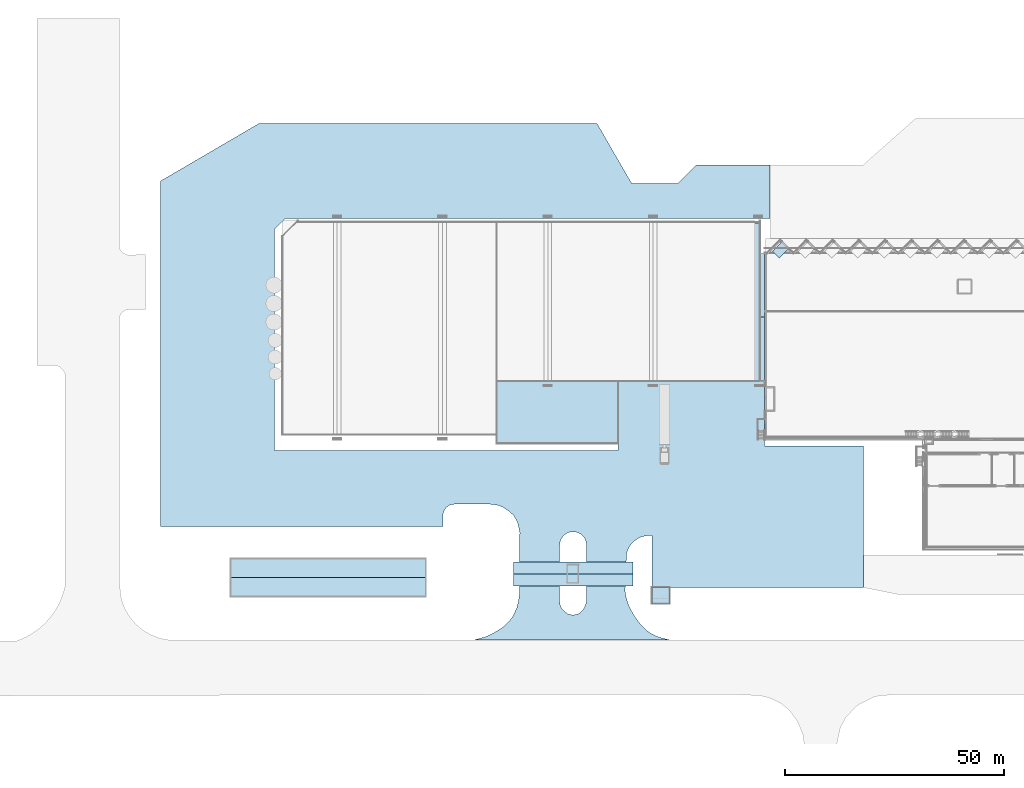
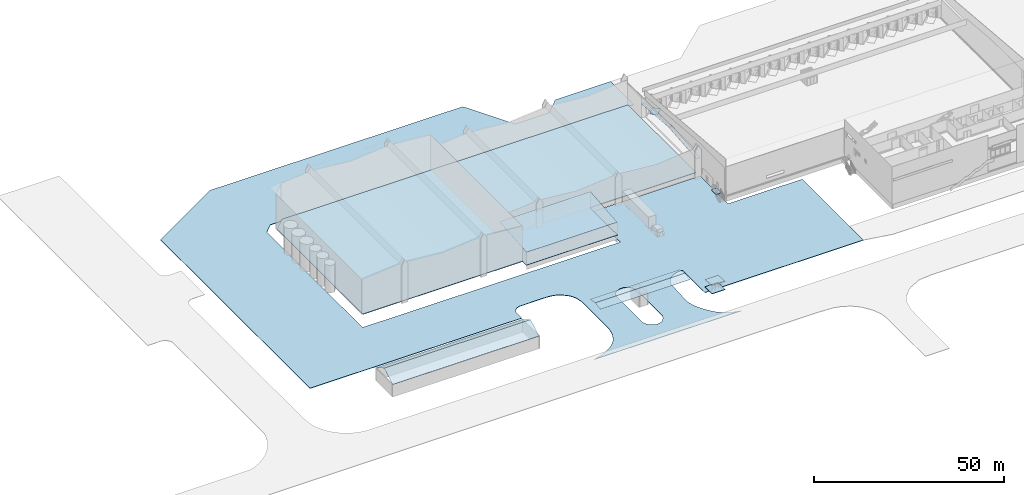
# One storey, part 10 of 64: 13 slabs, 1 opening, 5 elements without a shape of their own.
"""IFC2X3 building model written with IfcOpenShell, lengths in millimetres."""

from ifc_helpers import new_model, entity, si_unit, converted_unit, derived_unit, direction, frame, frame_2d, origin, place, context, subcontext, project, spatial, polyline, circle_curve, parameter, trimmed, segment, composite_curve, rectangle, outline, extrude, material, layer, layer_set, layer_usage, element, aggregate, save


model = new_model("IFC2X3")

# Units and contexts
model_context = context("Model", 3, precision=0.01, world=origin(), true_north=direction((4.05803320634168e-15, -1.0)))
body_context = subcontext(model_context, "Body", "Model", "MODEL_VIEW")
ifc_project = project(units=[si_unit("LENGTHUNIT", "METRE", prefix="MILLI"), si_unit("AREAUNIT", "SQUARE_METRE"), si_unit("VOLUMEUNIT", "CUBIC_METRE"), converted_unit("PLANEANGLEUNIT", "DEGREE", entity("IfcRatioMeasure", 0.0174532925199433), si_unit("PLANEANGLEUNIT", "RADIAN"), dimensions=[0, 0, 0, 0, 0, 0, 0]), si_unit("MASSUNIT", "GRAM", prefix="KILO"), derived_unit("MASSDENSITYUNIT", [(si_unit("MASSUNIT", "GRAM", prefix="KILO"), 1), (si_unit("LENGTHUNIT", "METRE"), -3)]), si_unit("TIMEUNIT", "SECOND"), si_unit("FREQUENCYUNIT", "HERTZ"), si_unit("THERMODYNAMICTEMPERATUREUNIT", "DEGREE_CELSIUS"), derived_unit("THERMALTRANSMITTANCEUNIT", [(si_unit("MASSUNIT", "GRAM", prefix="KILO"), 1), (si_unit("THERMODYNAMICTEMPERATUREUNIT", "KELVIN"), -1), (si_unit("TIMEUNIT", "SECOND"), -3)]), derived_unit("VOLUMETRICFLOWRATEUNIT", [(si_unit("LENGTHUNIT", "METRE"), 3), (si_unit("TIMEUNIT", "SECOND"), -1)]), si_unit("ELECTRICCURRENTUNIT", "AMPERE"), si_unit("ELECTRICVOLTAGEUNIT", "VOLT"), si_unit("POWERUNIT", "WATT"), si_unit("FORCEUNIT", "NEWTON", prefix="KILO"), si_unit("ILLUMINANCEUNIT", "LUX"), si_unit("LUMINOUSFLUXUNIT", "LUMEN"), si_unit("LUMINOUSINTENSITYUNIT", "CANDELA"), derived_unit("USERDEFINED", [(si_unit("MASSUNIT", "GRAM", prefix="KILO"), -1), (si_unit("LENGTHUNIT", "METRE"), -2), (si_unit("TIMEUNIT", "SECOND"), 3), (si_unit("LUMINOUSFLUXUNIT", "LUMEN"), 1)]), derived_unit("LINEARVELOCITYUNIT", [(si_unit("LENGTHUNIT", "METRE"), 1), (si_unit("TIMEUNIT", "SECOND"), -1)]), si_unit("PRESSUREUNIT", "PASCAL"), derived_unit("USERDEFINED", [(si_unit("LENGTHUNIT", "METRE"), -2), (si_unit("MASSUNIT", "GRAM", prefix="KILO"), 1), (si_unit("TIMEUNIT", "SECOND"), -2)])], contexts=[model_context])

# Site, building, storey
site_placement = place(None, frame((927466.849349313, 583801.882853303, 0.0), z_axis=(0.0, 0.0, 1.0), x_axis=(-1.0, 0.0, 0.0)))
site = spatial("IfcSite", under=ifc_project, at=site_placement, Name="Surface", CompositionType="ELEMENT")
building_placement = place(site_placement, origin())
building = spatial("IfcBuilding", under=site, at=building_placement, CompositionType="ELEMENT")
storey_placement = place(building_placement, frame((0.0, 0.0, 44170.0)))
storey = spatial("IfcBuildingStorey", under=building, at=storey_placement, Name="Ground FFL", CompositionType="ELEMENT", Elevation=44170.0)

# Roof, slabs
roof_1_placement = place(storey_placement, frame((32750.5657690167, 38901.441029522, 4000.0)))
roof_1 = element("IfcRoof", 1, at=roof_1_placement, inside=storey, Name="Basic Roof:50", ObjectType="Basic Roof:50", ShapeType="NOTDEFINED")
ifc_material_1 = material(Name="Aluminum")
ifc_layer_1 = layer(ifc_material_1, 50.0)
ifc_layer_set_1 = layer_set([ifc_layer_1], Name="Basic Roof:50")
slab_1_placement = place(roof_1_placement, origin())
slab_1 = element("IfcSlab", 2, at=slab_1_placement, material=ifc_layer_set_1, Name="Basic Roof:50", ObjectType="Basic Roof:50", PredefinedType="ROOF", context=body_context, shape_type="SweptSolid", body=[
    extrude(rectangle(XDim=44530.0, YDim=5149.96728946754, at=frame_2d((0.0, -4.68389771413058e-11), x_axis=(-1.0, 0.0))), frame((22265.0, 2230.001250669, 1287.49182236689), z_axis=(0.0, -0.499999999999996, 0.866025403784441), x_axis=(1.0, 0.0, 0.0)), (0.0, 0.499999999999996, 0.866025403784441), 57.7350269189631),
])
slab_2_placement = place(roof_1_placement, origin())
slab_2 = element("IfcSlab", 3, at=slab_2_placement, material=ifc_layer_set_1, Name="Basic Roof:50", ObjectType="Basic Roof:50", PredefinedType="ROOF", context=body_context, shape_type="SweptSolid", body=[
    extrude(rectangle(XDim=5149.9672894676, YDim=44530.0, at=frame_2d((-5.45696821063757e-12, 3.84261511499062e-11), x_axis=(0.0, -1.0))), frame((22265.0, 6690.00375200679, 1287.49182236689), z_axis=(0.0, 0.499999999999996, 0.866025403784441), x_axis=(1.0, 0.0, 0.0)), (0.0, -0.499999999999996, 0.866025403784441), 57.7350269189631),
])
aggregate(roof_1, [slab_1, slab_2])

# Roof, slab
roof_2_placement = place(storey_placement, frame((-11218.0540881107, -1359.36461970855, 4000.0)))
roof_2 = element("IfcRoof", 4, at=roof_2_placement, inside=storey, Name="Basic Roof:50", ObjectType="Basic Roof:50", ShapeType="NOTDEFINED")
slab_3_placement = place(roof_2_placement, origin())
slab_3 = element("IfcSlab", 5, at=slab_3_placement, material=ifc_layer_set_1, Name="Basic Roof:50", ObjectType="Basic Roof:50", PredefinedType="ROOF", context=body_context, shape_type="SweptSolid", body=[
    extrude(rectangle(XDim=14284.3949155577, YDim=27628.9119638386, at=frame_2d((0.0, 0.0), x_axis=(0.0, 1.0))), frame((13814.4559819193, 7115.01924016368, 622.483524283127), z_axis=(0.0, 0.0871557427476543, 0.996194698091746), x_axis=(1.0, 0.0, 0.0)), (0.0, -0.0871557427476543, 0.996194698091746), 50.1909918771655),
])
aggregate(roof_2, [slab_3])

# Roof, slabs
roof_3_placement = place(storey_placement, frame((-14617.1585914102, 39896.189739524, 4000.0)))
roof_3 = element("IfcRoof", 6, at=roof_3_placement, inside=storey, Name="Basic Roof:50", ObjectType="Basic Roof:50", ShapeType="NOTDEFINED")
slab_4_placement = place(roof_3_placement, origin())
slab_4 = element("IfcSlab", 7, at=slab_4_placement, material=ifc_layer_set_1, Name="Basic Roof:50", ObjectType="Basic Roof:50", PredefinedType="ROOF", context=body_context, shape_type="SweptSolid", body=[
    extrude(rectangle(XDim=27298.0744917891, YDim=2728.24487283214, at=frame_2d((4.54747350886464e-12, 0.0), x_axis=(-1.0, 0.0))), frame((13649.0372458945, 1343.39835144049, 236.877375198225), z_axis=(0.0, -0.173648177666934, 0.984807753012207), x_axis=(1.0, 0.0, 0.0)), (0.0, 0.173648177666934, 0.984807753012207), 50.7713305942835),
])
slab_5_placement = place(roof_3_placement, origin())
slab_5 = element("IfcSlab", 8, at=slab_5_placement, material=ifc_layer_set_1, Name="Basic Roof:50", ObjectType="Basic Roof:50", PredefinedType="ROOF", context=body_context, shape_type="SweptSolid", body=[
    extrude(rectangle(XDim=2728.24487283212, YDim=27298.0744917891, at=frame_2d((4.54747350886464e-12, 0.0), x_axis=(0.0, -1.0))), frame((13649.0372458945, 4030.19505432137, 236.877375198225), z_axis=(0.0, 0.173648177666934, 0.984807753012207), x_axis=(1.0, 0.0, 0.0)), (0.0, -0.173648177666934, 0.984807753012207), 50.7713305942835),
])
aggregate(roof_3, [slab_4, slab_5])

# Slab
ifc_material_2 = material(Name="existing floor")
ifc_layer_2 = layer(ifc_material_2, 200.0)
ifc_layer_set_2 = layer_set([ifc_layer_2], Name="Floor:Existing floor")
ifc_layer_usage_1 = layer_usage(ifc_layer_set_2, "AXIS3", "POSITIVE", 0.0)
slab_6_placement = place(storey_placement, origin())
element("IfcSlab", 9, at=slab_6_placement, inside=storey, material=ifc_layer_usage_1, Name="Floor:Existing floor", ObjectType="Floor:Existing floor", PredefinedType="FLOOR", context=body_context, shape_type="SweptSolid", body=[
    extrude(outline(polyline([(-30248.0932765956, -56320.1614281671), (5647.19858515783, -56320.1614281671), (5647.19858515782, -24025.680202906), (20070.2948088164, -24025.680202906), (20070.2948088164, 3641.23176093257), (18032.2948088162, 3641.23176093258), (18032.2948088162, 52217.9743881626), (-27003.3898523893, 52217.9743881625), (-30248.0932765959, 48973.2709639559), (-30248.0932765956, -56320.1614281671)])), frame((12807.6261147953, -7199.62094819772, 0.0), z_axis=(0.0, 0.0, -1.0), x_axis=(0.0, 1.0, 0.0)), (0.0, 0.0, 1.0), 199.999999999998),
])

# Roof, slabs
roof_4_placement = place(storey_placement, frame((-44599.0423298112, -30621.740321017, 4430.58171283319)))
roof_4 = element("IfcRoof", 10, at=roof_4_placement, inside=storey, Name="Basic Roof:50", ObjectType="Basic Roof:50", ShapeType="NOTDEFINED")
slab_7_placement = place(roof_4_placement, origin())
slab_7 = element("IfcSlab", 11, at=slab_7_placement, material=ifc_layer_set_1, Name="Basic Roof:50", ObjectType="Basic Roof:50", PredefinedType="ROOF", context=body_context, shape_type="SweptSolid", body=[
    extrude(rectangle(XDim=14706.1491882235, YDim=1086.50701643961, at=frame_2d((-4.37694325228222e-12, -2.27373675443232e-12), x_axis=(0.0, -1.0))), frame((543.253508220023, 21975.2817759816, 640.862677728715), z_axis=(0.0, 0.0871557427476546, 0.996194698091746), x_axis=(1.0, 0.0, 0.0)), (0.0, -0.0871557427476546, 0.996194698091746), 50.1909918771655),
])
slab_8_placement = place(roof_4_placement, origin())
slab_8 = element("IfcSlab", 12, at=slab_8_placement, material=ifc_layer_set_1, Name="Basic Roof:50", ObjectType="Basic Roof:50", PredefinedType="ROOF", context=body_context, shape_type="SweptSolid", body=[
    extrude(rectangle(XDim=1086.5070164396, YDim=14706.1491882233, at=frame_2d((-4.32009983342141e-12, 2.27373675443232e-12), x_axis=(-1.0, 0.0))), frame((543.253508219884, 7325.09392532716, 640.862677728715), z_axis=(0.0, -0.0871557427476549, 0.996194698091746), x_axis=(1.0, 0.0, 0.0)), (0.0, 0.0871557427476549, 0.996194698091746), 50.1909918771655),
])
aggregate(roof_4, [slab_7, slab_8])

# Slabs
ifc_material_3 = material(Name="cocn slab")
ifc_layer_3 = layer(ifc_material_3, 200.0)
ifc_layer_set_3 = layer_set([ifc_layer_3], Name="Floor:Generic 150mm")
ifc_layer_usage_2 = layer_usage(ifc_layer_set_3, "AXIS3", "POSITIVE", 0.0)
slab_9_placement = place(storey_placement, frame((-81347.9372768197, 7332.08571852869, -200.0)))
element("IfcSlab", 13, at=slab_9_placement, inside=storey, material=ifc_layer_usage_2, Name="Floor:Generic 150mm", ObjectType="Floor:Generic 150mm", PredefinedType="FLOOR", context=body_context, shape_type="SweptSolid", body=[
    extrude(rectangle(XDim=2485.09511362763, YDim=1560.0, at=frame_2d((-18374.4474735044, -3020.14474726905), x_axis=(0.0, 1.0))), frame((19154.4474735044, 4262.69230408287, 200.0), z_axis=(0.0, 0.0, -1.0), x_axis=(-1.0, 0.0, 0.0)), (0.0, 0.0, 1.0), 199.999999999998),
])
ifc_material_4 = material(Name="Wood - Stained")
ifc_layer_4 = layer(ifc_material_4, 50.0)
ifc_layer_set_4 = layer_set([ifc_layer_4], Name="Floor:Counter")
ifc_layer_usage_3 = layer_usage(ifc_layer_set_4, "AXIS3", "POSITIVE", 0.0)
slab_10_placement = place(storey_placement, frame((-133856.377847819, -33145.9604752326, -50.0)))
element("IfcSlab", 14, at=slab_10_placement, inside=storey, material=ifc_layer_usage_3, Name="Floor:Counter:15", ObjectType="Floor:Counter", PredefinedType="FLOOR", context=body_context, shape_type="SweptSolid", body=[
    extrude(rectangle(XDim=3081.03749272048, YDim=2185.04626113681, at=frame_2d((-41897.2629647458, 0.0), x_axis=(0.707106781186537, -0.707106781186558))), frame((43759.1047310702, 1861.84176632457, 50.0), z_axis=(0.0, 0.0, -1.0), x_axis=(-1.0, 0.0, 0.0)), (0.0, 0.0, 1.0), 49.9999999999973),
])

# Slab, opening
ifc_material_5 = material(Name="tar")
ifc_layer_5 = layer(ifc_material_5, 150.0)
ifc_layer_set_5 = layer_set([ifc_layer_5], Name="Floor:tar")
ifc_layer_usage_4 = layer_usage(ifc_layer_set_5, "AXIS3", "POSITIVE", 0.0)
slab_11_placement = place(storey_placement, frame((-67100.5917798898, -60125.0904744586, -1510.0)))
slab_11 = element("IfcSlab", 15, at=slab_11_placement, inside=storey, material=ifc_layer_usage_4, Name="Floor:tar", ObjectType="Floor:tar", PredefinedType="FLOOR", context=body_context, shape_type="SweptSolid", body=[
    extrude(outline(composite_curve([segment(polyline([(-6843.4460219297, 27943.6401515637), (-13026.0398358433, 27986.6080948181)]), True, "CONTINUOUS"), segment(trimmed(circle_curve(frame_2d((-12961.0418097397, 30579.8040826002), x_axis=(1.0, 0.0)), 2594.01044223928), [parameter(180.0)], [parameter(268.564191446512)], True, "PARAMETER"), False, "CONTINUOUS"), segment(polyline([(-15555.052251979, 30579.8040826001), (-15555.052251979, 33018.5414941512)]), True, "CONTINUOUS"), segment(polyline([(-15555.052251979, 33018.5414941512), (-79926.370009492, 33018.541494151)]), True, "CONTINUOUS"), segment(polyline([(-79926.370009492, 33018.541494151), (-79926.3700094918, -45678.3577006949)]), True, "CONTINUOUS"), segment(polyline([(-79926.3700094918, -45678.3577006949), (-57457.1760425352, -58817.4423963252)]), True, "CONTINUOUS"), segment(polyline([(-57457.1760425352, -58817.4423963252), (19536.0324658, -58817.4423963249)]), True, "CONTINUOUS"), segment(polyline([(19536.0324658, -58817.4423963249), (27477.2586013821, -45062.6787227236)]), True, "CONTINUOUS"), segment(polyline([(27477.2586013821, -45062.6787227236), (37856.4138437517, -45062.6787227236)]), True, "CONTINUOUS"), segment(polyline([(37856.4138437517, -45062.6787227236), (42156.4138437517, -49362.6787227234)]), True, "CONTINUOUS"), segment(polyline([(42156.4138437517, -49362.6787227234), (59003.1137821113, -49362.6787227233)]), True, "CONTINUOUS"), segment(polyline([(59003.1137821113, -49362.6787227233), (59003.1137821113, -37175.0749107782)]), True, "CONTINUOUS"), segment(polyline([(59003.1137821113, -37175.0749107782), (-51468.8035601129, -37175.0749107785)]), True, "CONTINUOUS"), segment(polyline([(-51468.8035601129, -37175.0749107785), (-53996.9126626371, -34647.1170671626)]), True, "CONTINUOUS"), segment(polyline([(-53996.9126626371, -34647.1170671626), (-53996.9126626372, 15771.72979066)]), True, "CONTINUOUS"), segment(polyline([(-53996.9126626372, 15771.72979066), (24375.4256020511, 15771.7297906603)]), True, "CONTINUOUS"), segment(polyline([(24375.4256020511, 15771.7297906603), (24375.4256020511, -13.7165415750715)]), True, "CONTINUOUS"), segment(polyline([(24375.4256020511, -13.7165415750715), (57756.4138437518, -13.716541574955)]), True, "CONTINUOUS"), segment(polyline([(57756.4138437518, -13.716541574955), (57756.4138437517, 14693.9258293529)]), True, "CONTINUOUS"), segment(polyline([(57756.4138437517, 14693.9258293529), (80257.9632938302, 14693.9258293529)]), True, "CONTINUOUS"), segment(polyline([(80257.9632938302, 14693.9258293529), (80257.9632938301, 46959.6472488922)]), True, "CONTINUOUS"), segment(polyline([(80257.9632938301, 46959.6472488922), (32090.3249535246, 46959.647248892)]), True, "CONTINUOUS"), segment(polyline([(32090.3249535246, 46959.647248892), (32090.3249535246, 35171.109509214)]), True, "CONTINUOUS"), segment(trimmed(circle_curve(frame_2d((31451.2630717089, 40434.3341892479), x_axis=(1.0, 0.0)), 5301.88024396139), [parameter(191.706574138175)], [parameter(276.922977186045)], True, "PARAMETER"), False, "CONTINUOUS"), segment(polyline([(26259.6643953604, 39358.5845413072), (25953.2675444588, 47546.3321598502)]), True, "CONTINUOUS"), segment(polyline([(25953.2675444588, 47546.3321598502), (26006.4651066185, 48461.5257566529)]), True, "CONTINUOUS"), segment(polyline([(26006.4651066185, 48461.5257566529), (26545.2775465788, 50444.1747811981)]), True, "CONTINUOUS"), segment(polyline([(26545.2775465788, 50444.1747811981), (26913.1521200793, 51394.8546945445)]), True, "CONTINUOUS"), segment(polyline([(26913.1521200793, 51394.8546945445), (27891.2780332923, 53184.67303689)]), True, "CONTINUOUS"), segment(polyline([(27891.2780332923, 53184.67303689), (28996.5847727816, 54777.0552180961)]), True, "CONTINUOUS"), segment(polyline([(28996.5847727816, 54777.0552180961), (29716.5805185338, 55629.045315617)]), True, "CONTINUOUS"), segment(polyline([(29716.5805185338, 55629.045315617), (30449.8455852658, 56353.4073397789)]), True, "CONTINUOUS"), segment(polyline([(30449.8455852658, 56353.4073397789), (31214.9329040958, 57017.6749022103)]), True, "CONTINUOUS"), segment(polyline([(31214.9329040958, 57017.6749022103), (32090.1413798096, 57563.7336206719)]), True, "CONTINUOUS"), segment(polyline([(32090.1413798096, 57563.7336206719), (33001.4360825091, 58039.5087407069)]), True, "CONTINUOUS"), segment(polyline([(33001.4360825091, 58039.5087407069), (33983.3426967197, 58384.0742655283)]), True, "CONTINUOUS"), segment(polyline([(33983.3426967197, 58384.0742655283), (36326.1603076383, 58964.2992516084)]), True, "CONTINUOUS"), segment(polyline([(36326.1603076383, 58964.2992516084), (-8645.01822330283, 58964.2992516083)]), True, "CONTINUOUS"), segment(polyline([(-8645.01822330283, 58964.2992516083), (-7425.50518714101, 58627.3486427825)]), True, "CONTINUOUS"), segment(polyline([(-7425.50518714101, 58627.3486427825), (-6101.60163587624, 58275.4399362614)]), True, "CONTINUOUS"), segment(polyline([(-6101.60163587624, 58275.4399362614), (-5120.79409003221, 57898.9431941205)]), True, "CONTINUOUS"), segment(polyline([(-5120.79409003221, 57898.9431941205), (-3310.90882849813, 56923.5225979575)]), True, "CONTINUOUS"), segment(polyline([(-3310.90882849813, 56923.5225979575), (-3155.17051519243, 56816.0709155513)]), True, "CONTINUOUS"), segment(polyline([(-3155.17051519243, 56816.0709155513), (-2483.88558425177, 56401.6939518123)]), True, "CONTINUOUS"), segment(polyline([(-2483.88558425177, 56401.6939518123), (-1602.30604529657, 55773.5184616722)]), True, "CONTINUOUS"), segment(polyline([(-1602.30604529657, 55773.5184616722), (-218.59211222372, 54323.357540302)]), True, "CONTINUOUS"), segment(polyline([(-218.59211222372, 54323.357540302), (402.167030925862, 53505.8105472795)]), True, "CONTINUOUS"), segment(polyline([(402.167030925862, 53505.8105472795), (1233.63087715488, 51634.3411051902)]), True, "CONTINUOUS"), segment(polyline([(1233.63087715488, 51634.3411051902), (1591.79780450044, 50319.0398270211)]), True, "CONTINUOUS"), segment(polyline([(1591.79780450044, 50319.0398270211), (1847.22353493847, 48614.3939116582)]), True, "CONTINUOUS"), segment(polyline([(1847.22353493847, 48614.3939116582), (1919.69978327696, 39534.7278280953)]), True, "CONTINUOUS"), segment(polyline([(1919.69978327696, 39534.7278280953), (1932.83065007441, 34451.9608078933)]), True, "CONTINUOUS"), segment(polyline([(1932.83065007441, 34451.9608078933), (1521.12987119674, 32447.2295370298)]), True, "CONTINUOUS"), segment(polyline([(1521.12987119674, 32447.2295370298), (1109.48396168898, 31474.5026251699)]), True, "CONTINUOUS"), segment(polyline([(1109.48396168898, 31474.5026251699), (569.626286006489, 30609.2733549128)]), True, "CONTINUOUS"), segment(polyline([(569.626286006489, 30609.2733549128), (-282.158979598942, 29768.9675407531)]), True, "CONTINUOUS"), segment(polyline([(-282.158979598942, 29768.9675407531), (-2012.39517700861, 28578.9075837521)]), True, "CONTINUOUS"), segment(polyline([(-2012.39517700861, 28578.9075837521), (-2979.43479542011, 28249.0039972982)]), True, "CONTINUOUS"), segment(polyline([(-2979.43479542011, 28249.0039972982), (-3991.30118575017, 28057.1748855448)]), True, "CONTINUOUS"), segment(polyline([(-3991.30118575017, 28057.1748855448), (-5021.47643286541, 27959.753325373)]), True, "CONTINUOUS"), segment(polyline([(-5021.47643286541, 27959.753325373), (-6843.4460219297, 27943.6401515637)]), True, "CONTINUOUS")], self_intersect=False)), frame((80257.9632938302, 58817.4423963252, 150.0), z_axis=(0.0, 0.0, -1.0), x_axis=(-1.0, 0.0, 0.0)), (0.0, 0.0, 1.0), 150.000000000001),
])
opening_placement = place(slab_11_placement, frame((66208.0, 108304.870908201, 150.0)))
element("IfcOpeningElement", 16, at=opening_placement, cuts=slab_11, Name="Floor:tar:2", ObjectType="Opening", context=body_context, shape_type="SweptSolid", body=[
    extrude(outline(composite_curve([segment(trimmed(circle_curve(frame_2d((35.1095382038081, -12175.1029141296), x_axis=(1.0, 0.0)), 3044.00061413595), [parameter(180.03639548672)], [parameter(354.443231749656)], True, "PARAMETER"), True, "CONTINUOUS"), segment(polyline([(3064.80562185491, -12469.8593891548), (3056.36961302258, 810.568503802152)]), True, "CONTINUOUS"), segment(polyline([(3056.36961302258, 810.568503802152), (2902.59417002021, 1303.96703748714)]), True, "CONTINUOUS"), segment(polyline([(2902.59417002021, 1303.96703748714), (2573.06545047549, 2159.18152711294)]), True, "CONTINUOUS"), segment(polyline([(2573.06545047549, 2159.18152711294), (1883.83486231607, 3016.28431937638)]), True, "CONTINUOUS"), segment(polyline([(1883.83486231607, 3016.28431937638), (1080.52351272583, 3548.19396909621)]), True, "CONTINUOUS"), segment(polyline([(1080.52351272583, 3548.19396909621), (-21.2165529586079, 3756.86794425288)]), True, "CONTINUOUS"), segment(polyline([(-21.2165529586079, 3756.86794425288), (-1065.15680629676, 3540.13366605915)]), True, "CONTINUOUS"), segment(polyline([(-1065.15680629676, 3540.13366605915), (-1884.99523310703, 2960.02854295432)]), True, "CONTINUOUS"), segment(polyline([(-1884.99523310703, 2960.02854295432), (-2574.43298865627, 2217.0072906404)]), True, "CONTINUOUS"), segment(polyline([(-2574.43298865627, 2217.0072906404), (-2989.82269246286, 1251.35031533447)]), True, "CONTINUOUS"), segment(polyline([(-2989.82269246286, 1251.35031533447), (-3016.67849513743, 83.3128003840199)]), True, "CONTINUOUS"), segment(polyline([(-3016.67849513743, 83.3128003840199), (-3008.89046179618, -12177.0365273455)]), True, "CONTINUOUS")], self_intersect=False)), frame((0.0, 0.0, 0.0), z_axis=(0.0, 0.0, -1.0), x_axis=(-1.0, 0.0, 0.0)), (0.0, 0.0, 1.0), 150.000000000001),
])

# Slab
ifc_material_6 = material(Name="paving")
ifc_layer_6 = layer(ifc_material_6, 150.0)
ifc_layer_set_6 = layer_set([ifc_layer_6], Name="Floor:paving")
ifc_layer_usage_5 = layer_usage(ifc_layer_set_6, "AXIS3", "POSITIVE", 0.0)
slab_12_placement = place(storey_placement, origin())
element("IfcSlab", 17, at=slab_12_placement, inside=storey, material=ifc_layer_usage_5, Name="Floor:paving", ObjectType="Floor:paving", PredefinedType="FLOOR", context=body_context, shape_type="SweptSolid", body=[
    extrude(rectangle(XDim=3728.36286884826, YDim=4010.93004782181, at=frame_2d((4.32009983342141e-12, 2.1600499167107e-12), x_axis=(1.0, 0.0))), frame((-20938.4184634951, 47516.1806051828, 500.0), z_axis=(0.0, 0.0, -1.0), x_axis=(0.0, 1.0, 0.0)), (0.0, 0.0, 1.0), 150.000000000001),
])

# Roof, slab
roof_5_placement = place(storey_placement, frame((-22943.883487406, 45651.9991707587, 2800.0)))
roof_5 = element("IfcRoof", 18, at=roof_5_placement, inside=storey, Name="Basic Roof:50", ObjectType="Basic Roof:50", ShapeType="NOTDEFINED")
slab_13_placement = place(roof_5_placement, origin())
slab_13 = element("IfcSlab", 19, at=slab_13_placement, material=ifc_layer_set_1, Name="Basic Roof:50", ObjectType="Basic Roof:50", PredefinedType="ROOF", context=body_context, shape_type="SweptSolid", body=[
    extrude(rectangle(XDim=3742.6046093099, YDim=4010.93004782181, at=frame_2d((2.1600499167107e-12, -4.32009983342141e-12), x_axis=(0.0, -1.0))), frame((2005.4650239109, 1864.18143442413, 163.094742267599), z_axis=(0.0, -0.0871557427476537, 0.996194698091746), x_axis=(1.0, 0.0, 0.0)), (0.0, 0.0871557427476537, 0.996194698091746), 50.1909918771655),
])
aggregate(roof_5, [slab_13])

save(model, "model.ifc")
